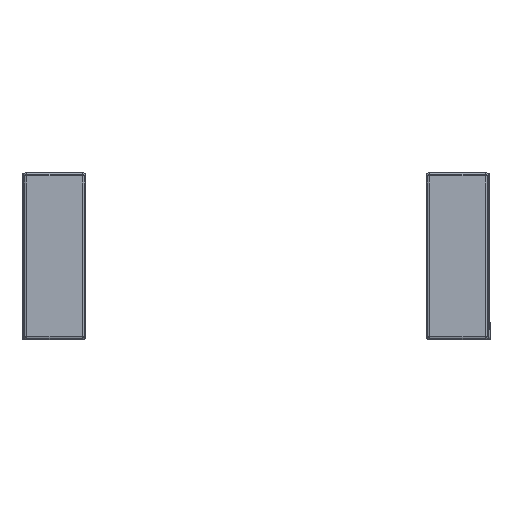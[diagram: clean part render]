
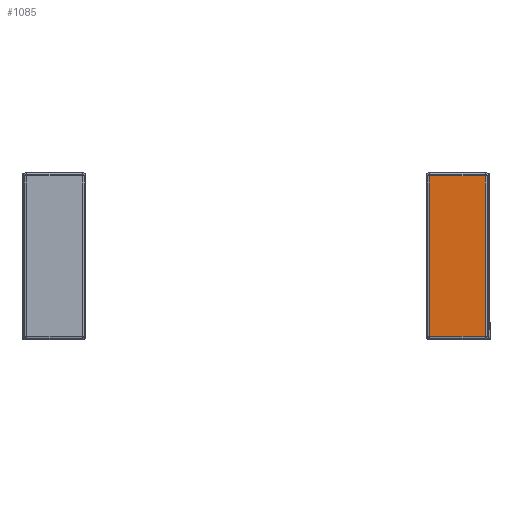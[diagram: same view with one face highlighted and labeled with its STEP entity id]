
A CAD part, front view. The second image highlights one B-rep face of the part: STEP entity #1085.
In plain terms, the highlighted planar face has unit normal (0, -1, 0) as drawn and (0, 1, 0) by its records, which use the part's own axes.
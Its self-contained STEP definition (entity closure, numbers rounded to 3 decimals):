
#1085=ADVANCED_FACE('',(#1704),#1706,.T.);
#1704=FACE_BOUND('',#1705,.T.);
#1705=EDGE_LOOP('',(#5355,#5356,#5357,#5358));
#1706=PLANE('',#1707);
#1707=AXIS2_PLACEMENT_3D('',#1708,#1709,#1710);
#1708=CARTESIAN_POINT('',(37.5,51.75,-2.));
#1709=DIRECTION('',(0.,1.,0.));
#1710=DIRECTION('',(-1.,0.,0.));
#5355=ORIENTED_EDGE('',*,*,#7059,.F.);
#5356=ORIENTED_EDGE('',*,*,#7060,.F.);
#5357=ORIENTED_EDGE('',*,*,#7061,.T.);
#5358=ORIENTED_EDGE('',*,*,#7062,.F.);
#7059=EDGE_CURVE('',#8000,#8001,#8002,.T.);
#7060=EDGE_CURVE('',#8003,#8000,#8004,.T.);
#7061=EDGE_CURVE('',#8003,#8005,#8006,.T.);
#7062=EDGE_CURVE('',#8001,#8005,#8007,.T.);
#8000=VERTEX_POINT('',#9638);
#8001=VERTEX_POINT('',#9639);
#8002=LINE('',#9640,#9641);
#8003=VERTEX_POINT('',#9643);
#8004=LINE('',#9644,#9645);
#8005=VERTEX_POINT('',#9647);
#8006=LINE('',#9648,#9649);
#8007=LINE('',#9651,#9652);
#9638=CARTESIAN_POINT('',(-33.5,51.75,-4.));
#9639=CARTESIAN_POINT('',(-33.5,51.75,-196.));
#9640=CARTESIAN_POINT('',(-33.5,51.75,-4.));
#9641=VECTOR('',#9642,1.);
#9642=DIRECTION('',(0.,0.,-1.));
#9643=CARTESIAN_POINT('',(33.5,51.75,-4.));
#9644=CARTESIAN_POINT('',(33.5,51.75,-4.));
#9645=VECTOR('',#9646,1.);
#9646=DIRECTION('',(-1.,0.,0.));
#9647=CARTESIAN_POINT('',(33.5,51.75,-196.));
#9648=CARTESIAN_POINT('',(33.5,51.75,-4.));
#9649=VECTOR('',#9650,1.);
#9650=DIRECTION('',(0.,0.,-1.));
#9651=CARTESIAN_POINT('',(-33.5,51.75,-196.));
#9652=VECTOR('',#9653,1.);
#9653=DIRECTION('',(1.,0.,0.));
